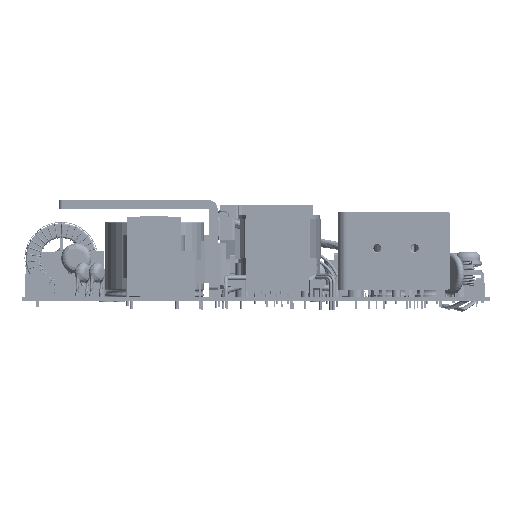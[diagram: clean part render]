
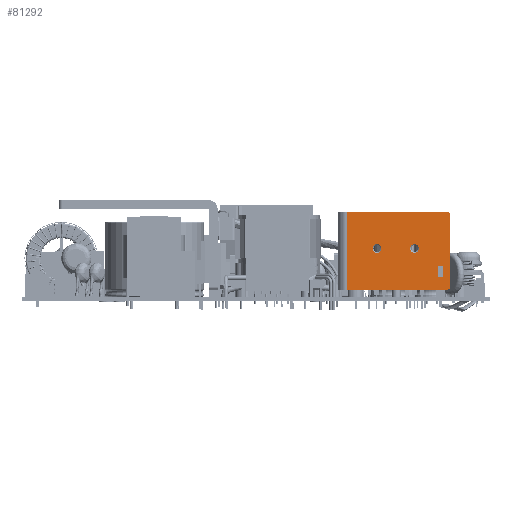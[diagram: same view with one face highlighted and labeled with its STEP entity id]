
A CAD part, top view. The second image highlights one B-rep face of the part: STEP entity #81292.
In plain terms, the highlighted planar face has unit normal (0, 0, 1).
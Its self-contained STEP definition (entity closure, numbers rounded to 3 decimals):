
#81202 = EDGE_CURVE ( 'NONE', #81204, #81249, #160067, .T. ) ;
#81204 = VERTEX_POINT ( 'NONE', #160062 ) ;
#81249 = VERTEX_POINT ( 'NONE', #160082 ) ;
#81258 = EDGE_LOOP ( 'NONE', ( #81259, #81266, #81272, #81371, #81378, #81383 ) ) ;
#81259 = ORIENTED_EDGE ( 'NONE', *, *, #81260, .T. ) ;
#81260 = EDGE_CURVE ( 'NONE', #81262, #81264, #160071, .T. ) ;
#81262 = VERTEX_POINT ( 'NONE', #160133 ) ;
#81264 = VERTEX_POINT ( 'NONE', #160132 ) ;
#81266 = ORIENTED_EDGE ( 'NONE', *, *, #81268, .T. ) ;
#81268 = EDGE_CURVE ( 'NONE', #81264, #81270, #160131, .T. ) ;
#81270 = VERTEX_POINT ( 'NONE', #160126 ) ;
#81272 = ORIENTED_EDGE ( 'NONE', *, *, #81369, .F. ) ;
#81292 = ADVANCED_FACE ( 'NONE', ( #160105, #160104, #160103, #160102 ), #160101, .F. ) ;
#81296 = EDGE_LOOP ( 'NONE', ( #81298, #81299 ) ) ;
#81298 = ORIENTED_EDGE ( 'NONE', *, *, #81202, .T. ) ;
#81299 = ORIENTED_EDGE ( 'NONE', *, *, #81398, .T. ) ;
#81307 = VERTEX_POINT ( 'NONE', #160150 ) ;
#81312 = EDGE_CURVE ( 'NONE', #81313, #81307, #160149, .T. ) ;
#81313 = VERTEX_POINT ( 'NONE', #160144 ) ;
#81342 = EDGE_CURVE ( 'NONE', #81395, #81343, #160210, .T. ) ;
#81343 = VERTEX_POINT ( 'NONE', #160206 ) ;
#81345 = ORIENTED_EDGE ( 'NONE', *, *, #81347, .T. ) ;
#81347 = EDGE_CURVE ( 'NONE', #81343, #81349, #160205, .T. ) ;
#81349 = VERTEX_POINT ( 'NONE', #160201 ) ;
#81352 = ORIENTED_EDGE ( 'NONE', *, *, #81354, .T. ) ;
#81354 = EDGE_CURVE ( 'NONE', #81349, #81393, #160200, .T. ) ;
#81369 = EDGE_CURVE ( 'NONE', #81370, #81270, #160242, .T. ) ;
#81370 = VERTEX_POINT ( 'NONE', #160238 ) ;
#81371 = ORIENTED_EDGE ( 'NONE', *, *, #81374, .T. ) ;
#81374 = EDGE_CURVE ( 'NONE', #81370, #81376, #160237, .T. ) ;
#81376 = VERTEX_POINT ( 'NONE', #160232 ) ;
#81378 = ORIENTED_EDGE ( 'NONE', *, *, #81380, .F. ) ;
#81380 = EDGE_CURVE ( 'NONE', #81382, #81376, #160231, .T. ) ;
#81382 = VERTEX_POINT ( 'NONE', #160227 ) ;
#81383 = ORIENTED_EDGE ( 'NONE', *, *, #81384, .T. ) ;
#81384 = EDGE_CURVE ( 'NONE', #81382, #81262, #160226, .T. ) ;
#81386 = EDGE_LOOP ( 'NONE', ( #81389, #81397, #81345, #81352 ) ) ;
#81389 = ORIENTED_EDGE ( 'NONE', *, *, #81391, .T. ) ;
#81391 = EDGE_CURVE ( 'NONE', #81393, #81395, #160287, .T. ) ;
#81393 = VERTEX_POINT ( 'NONE', #160283 ) ;
#81395 = VERTEX_POINT ( 'NONE', #160282 ) ;
#81397 = ORIENTED_EDGE ( 'NONE', *, *, #81342, .T. ) ;
#81398 = EDGE_CURVE ( 'NONE', #81249, #81204, #160281, .T. ) ;
#81399 = EDGE_LOOP ( 'NONE', ( #81400, #81402 ) ) ;
#81400 = ORIENTED_EDGE ( 'NONE', *, *, #81312, .T. ) ;
#81402 = ORIENTED_EDGE ( 'NONE', *, *, #81405, .T. ) ;
#81405 = EDGE_CURVE ( 'NONE', #81307, #81313, #160276, .T. ) ;
#160062 = CARTESIAN_POINT ( 'NONE',  ( 28.43, 14.5, 0. ) ) ;
#160063 = DIRECTION ( 'NONE',  ( -1., 0., 0. ) ) ;
#160064 = DIRECTION ( 'NONE',  ( 0., 0., -1. ) ) ;
#160065 = CARTESIAN_POINT ( 'NONE',  ( 26.88, 14.5, 0. ) ) ;
#160066 = AXIS2_PLACEMENT_3D ( 'NONE', #160065, #160064, #160063 ) ;
#160067 = CIRCLE ( 'NONE', #160066, 1.55 ) ;
#160068 = DIRECTION ( 'NONE',  ( 1., 0., 0. ) ) ;
#160069 = VECTOR ( 'NONE', #160068, 1000. ) ;
#160070 = CARTESIAN_POINT ( 'NONE',  ( 0., 0., 0. ) ) ;
#160071 = LINE ( 'NONE', #160070, #160069 ) ;
#160082 = CARTESIAN_POINT ( 'NONE',  ( 25.33, 14.5, 0. ) ) ;
#160101 = PLANE ( 'NONE',  #160164 ) ;
#160102 = FACE_BOUND ( 'NONE', #81386, .T. ) ;
#160103 = FACE_OUTER_BOUND ( 'NONE', #81258, .T. ) ;
#160104 = FACE_BOUND ( 'NONE', #81399, .T. ) ;
#160105 = FACE_BOUND ( 'NONE', #81296, .T. ) ;
#160126 = CARTESIAN_POINT ( 'NONE',  ( 39.5, 1., 0. ) ) ;
#160127 = DIRECTION ( 'NONE',  ( -1., 0., 0. ) ) ;
#160128 = DIRECTION ( 'NONE',  ( 0., 0., 1. ) ) ;
#160129 = CARTESIAN_POINT ( 'NONE',  ( 38.5, 1., 0. ) ) ;
#160130 = AXIS2_PLACEMENT_3D ( 'NONE', #160129, #160128, #160127 ) ;
#160131 = CIRCLE ( 'NONE', #160130, 1. ) ;
#160132 = CARTESIAN_POINT ( 'NONE',  ( 38.5, 0., 0. ) ) ;
#160133 = CARTESIAN_POINT ( 'NONE',  ( 3., 0., 0. ) ) ;
#160144 = CARTESIAN_POINT ( 'NONE',  ( 15.17, 14.5, 0. ) ) ;
#160145 = DIRECTION ( 'NONE',  ( -1., 0., 0. ) ) ;
#160146 = DIRECTION ( 'NONE',  ( 0., 0., -1. ) ) ;
#160147 = CARTESIAN_POINT ( 'NONE',  ( 13.62, 14.5, 0. ) ) ;
#160148 = AXIS2_PLACEMENT_3D ( 'NONE', #160147, #160146, #160145 ) ;
#160149 = CIRCLE ( 'NONE', #160148, 1.55 ) ;
#160150 = CARTESIAN_POINT ( 'NONE',  ( 12.07, 14.5, 0. ) ) ;
#160160 = DIRECTION ( 'NONE',  ( -1., 0., 0. ) ) ;
#160161 = DIRECTION ( 'NONE',  ( 0., 0., -1. ) ) ;
#160162 = CARTESIAN_POINT ( 'NONE',  ( 0., 27.5, 0. ) ) ;
#160164 = AXIS2_PLACEMENT_3D ( 'NONE', #160162, #160161, #160160 ) ;
#160197 = DIRECTION ( 'NONE',  ( -1., 0., 0. ) ) ;
#160198 = VECTOR ( 'NONE', #160197, 1000. ) ;
#160199 = CARTESIAN_POINT ( 'NONE',  ( 37.07, 4.5, 0. ) ) ;
#160200 = LINE ( 'NONE', #160199, #160198 ) ;
#160201 = CARTESIAN_POINT ( 'NONE',  ( 37.07, 4.5, 0. ) ) ;
#160202 = DIRECTION ( 'NONE',  ( 0., -1., 0. ) ) ;
#160203 = VECTOR ( 'NONE', #160202, 1000. ) ;
#160204 = CARTESIAN_POINT ( 'NONE',  ( 37.07, 8.3, 0. ) ) ;
#160205 = LINE ( 'NONE', #160204, #160203 ) ;
#160206 = CARTESIAN_POINT ( 'NONE',  ( 37.07, 8.3, 0. ) ) ;
#160207 = DIRECTION ( 'NONE',  ( 1., 0., 0. ) ) ;
#160208 = VECTOR ( 'NONE', #160207, 1000. ) ;
#160209 = CARTESIAN_POINT ( 'NONE',  ( 35.07, 8.3, 0. ) ) ;
#160210 = LINE ( 'NONE', #160209, #160208 ) ;
#160223 = DIRECTION ( 'NONE',  ( 0., -1., 0. ) ) ;
#160224 = VECTOR ( 'NONE', #160223, 1000. ) ;
#160225 = CARTESIAN_POINT ( 'NONE',  ( 3., 27.5, 0. ) ) ;
#160226 = LINE ( 'NONE', #160225, #160224 ) ;
#160227 = CARTESIAN_POINT ( 'NONE',  ( 3., 27.5, 0. ) ) ;
#160228 = DIRECTION ( 'NONE',  ( 1., 0., 0. ) ) ;
#160229 = VECTOR ( 'NONE', #160228, 1000. ) ;
#160230 = CARTESIAN_POINT ( 'NONE',  ( 0., 27.5, 0. ) ) ;
#160231 = LINE ( 'NONE', #160230, #160229 ) ;
#160232 = CARTESIAN_POINT ( 'NONE',  ( 38.5, 27.5, 0. ) ) ;
#160233 = DIRECTION ( 'NONE',  ( -1., 0., 0. ) ) ;
#160234 = DIRECTION ( 'NONE',  ( 0., 0., 1. ) ) ;
#160235 = CARTESIAN_POINT ( 'NONE',  ( 38.5, 26.5, 0. ) ) ;
#160236 = AXIS2_PLACEMENT_3D ( 'NONE', #160235, #160234, #160233 ) ;
#160237 = CIRCLE ( 'NONE', #160236, 1. ) ;
#160238 = CARTESIAN_POINT ( 'NONE',  ( 39.5, 26.5, 0. ) ) ;
#160239 = DIRECTION ( 'NONE',  ( 0., -1., 0. ) ) ;
#160240 = VECTOR ( 'NONE', #160239, 1000. ) ;
#160241 = CARTESIAN_POINT ( 'NONE',  ( 39.5, 27.5, 0. ) ) ;
#160242 = LINE ( 'NONE', #160241, #160240 ) ;
#160272 = DIRECTION ( 'NONE',  ( -1., 0., 0. ) ) ;
#160273 = DIRECTION ( 'NONE',  ( 0., 0., -1. ) ) ;
#160274 = CARTESIAN_POINT ( 'NONE',  ( 13.62, 14.5, 0. ) ) ;
#160275 = AXIS2_PLACEMENT_3D ( 'NONE', #160274, #160273, #160272 ) ;
#160276 = CIRCLE ( 'NONE', #160275, 1.55 ) ;
#160277 = DIRECTION ( 'NONE',  ( -1., 0., 0. ) ) ;
#160278 = DIRECTION ( 'NONE',  ( 0., 0., -1. ) ) ;
#160279 = CARTESIAN_POINT ( 'NONE',  ( 26.88, 14.5, 0. ) ) ;
#160280 = AXIS2_PLACEMENT_3D ( 'NONE', #160279, #160278, #160277 ) ;
#160281 = CIRCLE ( 'NONE', #160280, 1.55 ) ;
#160282 = CARTESIAN_POINT ( 'NONE',  ( 35.07, 8.3, 0. ) ) ;
#160283 = CARTESIAN_POINT ( 'NONE',  ( 35.07, 4.5, 0. ) ) ;
#160284 = DIRECTION ( 'NONE',  ( 0., 1., 0. ) ) ;
#160285 = VECTOR ( 'NONE', #160284, 1000. ) ;
#160286 = CARTESIAN_POINT ( 'NONE',  ( 35.07, 4.5, 0. ) ) ;
#160287 = LINE ( 'NONE', #160286, #160285 ) ;
